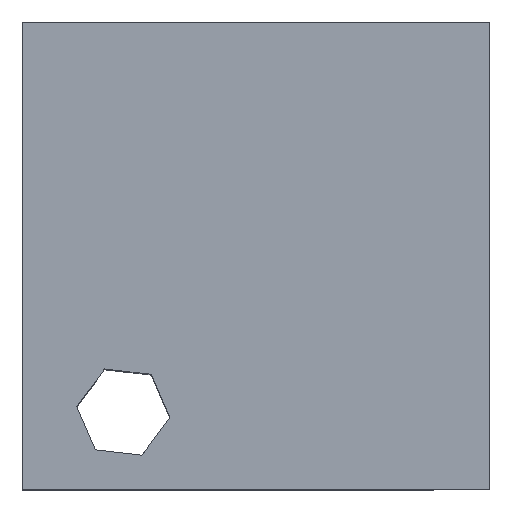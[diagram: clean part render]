
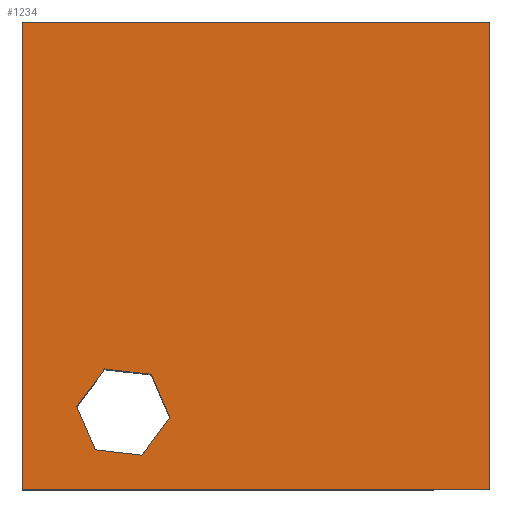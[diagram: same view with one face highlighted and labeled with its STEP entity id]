
A CAD part, top view. The second image highlights one B-rep face of the part: STEP entity #1234.
In plain terms, the highlighted planar face has unit normal (0, 0, 1).
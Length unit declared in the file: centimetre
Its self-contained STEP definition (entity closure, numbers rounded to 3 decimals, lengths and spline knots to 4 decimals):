
#10 = LINE ( 'NONE', #341, #1562 ) ;
#11 = CARTESIAN_POINT ( 'NONE',  ( 0., 0., 1000. ) ) ;
#18 = VECTOR ( 'NONE', #1215, 100. ) ;
#56 = VERTEX_POINT ( 'NONE', #1151 ) ;
#59 = CARTESIAN_POINT ( 'NONE',  ( 0., 0., 1000. ) ) ;
#70 = VERTEX_POINT ( 'NONE', #1304 ) ;
#95 = EDGE_CURVE ( 'NONE', #1500, #70, #10, .T. ) ;
#138 = LINE ( 'NONE', #157, #187 ) ;
#157 = CARTESIAN_POINT ( 'NONE',  ( 1000., 1000., 1000. ) ) ;
#187 = VECTOR ( 'NONE', #1882, 100. ) ;
#224 = ORIENTED_EDGE ( 'NONE', *, *, #1918, .T. ) ;
#225 = LINE ( 'NONE', #1723, #2076 ) ;
#235 = EDGE_LOOP ( 'NONE', ( #1187, #1959, #1643, #305, #1900, #263 ) ) ;
#243 = VERTEX_POINT ( 'NONE', #874 ) ;
#248 = VERTEX_POINT ( 'NONE', #59 ) ;
#256 = EDGE_CURVE ( 'NONE', #1006, #1876, #405, .T. ) ;
#263 = ORIENTED_EDGE ( 'NONE', *, *, #563, .T. ) ;
#305 = ORIENTED_EDGE ( 'NONE', *, *, #363, .T. ) ;
#332 = EDGE_CURVE ( 'NONE', #1876, #1242, #225, .T. ) ;
#341 = CARTESIAN_POINT ( 'NONE',  ( 315.8017, 153.5787, 1000. ) ) ;
#350 = FACE_OUTER_BOUND ( 'NONE', #1419, .T. ) ;
#354 = VECTOR ( 'NONE', #902, 100. ) ;
#363 = EDGE_CURVE ( 'NONE', #243, #1500, #1073, .T. ) ;
#393 = ORIENTED_EDGE ( 'NONE', *, *, #743, .T. ) ;
#405 = LINE ( 'NONE', #864, #1290 ) ;
#412 = CARTESIAN_POINT ( 'NONE',  ( 175.9585, 257.3142, 1000. ) ) ;
#424 = CARTESIAN_POINT ( 'NONE',  ( 255.91, 72.8402, 1000. ) ) ;
#463 = ORIENTED_EDGE ( 'NONE', *, *, #2086, .T. ) ;
#506 = DIRECTION ( 'NONE',  ( -0.596, -0.803, 0. ) ) ;
#563 = EDGE_CURVE ( 'NONE', #70, #1006, #1898, .T. ) ;
#574 = CARTESIAN_POINT ( 'NONE',  ( 0., 1000., 1000. ) ) ;
#595 = DIRECTION ( 'NONE',  ( 0.398, -0.918, 0. ) ) ;
#655 = DIRECTION ( 'NONE',  ( 0., 0., 1. ) ) ;
#664 = CARTESIAN_POINT ( 'NONE',  ( 0., 0., 1000. ) ) ;
#719 = VECTOR ( 'NONE', #1502, 100. ) ;
#726 = LINE ( 'NONE', #412, #354 ) ;
#743 = EDGE_CURVE ( 'NONE', #248, #56, #1743, .T. ) ;
#762 = DIRECTION ( 'NONE',  ( 0.596, 0.803, 0. ) ) ;
#830 = DIRECTION ( 'NONE',  ( 1., 0., 0. ) ) ;
#864 = CARTESIAN_POINT ( 'NONE',  ( 156.0426, 84.3387, 1000. ) ) ;
#874 = CARTESIAN_POINT ( 'NONE',  ( 275.826, 245.8157, 1000. ) ) ;
#876 = CARTESIAN_POINT ( 'NONE',  ( 116.0668, 176.5757, 1000. ) ) ;
#902 = DIRECTION ( 'NONE',  ( 0.993, -0.114, 0. ) ) ;
#993 = PLANE ( 'NONE',  #1258 ) ;
#1006 = VERTEX_POINT ( 'NONE', #1925 ) ;
#1038 = VERTEX_POINT ( 'NONE', #1251 ) ;
#1073 = LINE ( 'NONE', #1224, #1663 ) ;
#1077 = CARTESIAN_POINT ( 'NONE',  ( 0., 1000., 1000. ) ) ;
#1101 = DIRECTION ( 'NONE',  ( -0.993, 0.114, 0. ) ) ;
#1151 = CARTESIAN_POINT ( 'NONE',  ( 1000., 0., 1000. ) ) ;
#1187 = ORIENTED_EDGE ( 'NONE', *, *, #256, .T. ) ;
#1215 = DIRECTION ( 'NONE',  ( -1., 0., 0. ) ) ;
#1224 = CARTESIAN_POINT ( 'NONE',  ( 275.826, 245.8157, 1000. ) ) ;
#1234 = ADVANCED_FACE ( 'NONE', ( #1628, #350 ), #993, .T. ) ;
#1242 = VERTEX_POINT ( 'NONE', #1297 ) ;
#1251 = CARTESIAN_POINT ( 'NONE',  ( 1000., 1000., 1000. ) ) ;
#1253 = LINE ( 'NONE', #1402, #2038 ) ;
#1258 = AXIS2_PLACEMENT_3D ( 'NONE', #11, #655, #830 ) ;
#1290 = VECTOR ( 'NONE', #1692, 100. ) ;
#1297 = CARTESIAN_POINT ( 'NONE',  ( 175.9585, 257.3142, 1000. ) ) ;
#1304 = CARTESIAN_POINT ( 'NONE',  ( 255.91, 72.8402, 1000. ) ) ;
#1306 = EDGE_CURVE ( 'NONE', #1242, #243, #726, .T. ) ;
#1373 = LINE ( 'NONE', #574, #18 ) ;
#1402 = CARTESIAN_POINT ( 'NONE',  ( 0., 1000., 1000. ) ) ;
#1419 = EDGE_LOOP ( 'NONE', ( #463, #393, #1503, #224 ) ) ;
#1473 = VERTEX_POINT ( 'NONE', #1077 ) ;
#1500 = VERTEX_POINT ( 'NONE', #1557 ) ;
#1502 = DIRECTION ( 'NONE',  ( 1., 0., 0. ) ) ;
#1503 = ORIENTED_EDGE ( 'NONE', *, *, #1747, .T. ) ;
#1557 = CARTESIAN_POINT ( 'NONE',  ( 315.8017, 153.5787, 1000. ) ) ;
#1562 = VECTOR ( 'NONE', #506, 100. ) ;
#1628 = FACE_BOUND ( 'NONE', #235, .T. ) ;
#1643 = ORIENTED_EDGE ( 'NONE', *, *, #1306, .T. ) ;
#1663 = VECTOR ( 'NONE', #595, 100. ) ;
#1692 = DIRECTION ( 'NONE',  ( -0.398, 0.918, 0. ) ) ;
#1723 = CARTESIAN_POINT ( 'NONE',  ( 116.0668, 176.5757, 1000. ) ) ;
#1743 = LINE ( 'NONE', #664, #719 ) ;
#1747 = EDGE_CURVE ( 'NONE', #56, #1038, #138, .T. ) ;
#1876 = VERTEX_POINT ( 'NONE', #876 ) ;
#1882 = DIRECTION ( 'NONE',  ( 0., 1., 0. ) ) ;
#1898 = LINE ( 'NONE', #424, #1937 ) ;
#1900 = ORIENTED_EDGE ( 'NONE', *, *, #95, .T. ) ;
#1916 = DIRECTION ( 'NONE',  ( 0., -1., 0. ) ) ;
#1918 = EDGE_CURVE ( 'NONE', #1038, #1473, #1373, .T. ) ;
#1925 = CARTESIAN_POINT ( 'NONE',  ( 156.0426, 84.3387, 1000. ) ) ;
#1937 = VECTOR ( 'NONE', #1101, 100. ) ;
#1959 = ORIENTED_EDGE ( 'NONE', *, *, #332, .T. ) ;
#2038 = VECTOR ( 'NONE', #1916, 100. ) ;
#2076 = VECTOR ( 'NONE', #762, 100. ) ;
#2086 = EDGE_CURVE ( 'NONE', #1473, #248, #1253, .T. ) ;
